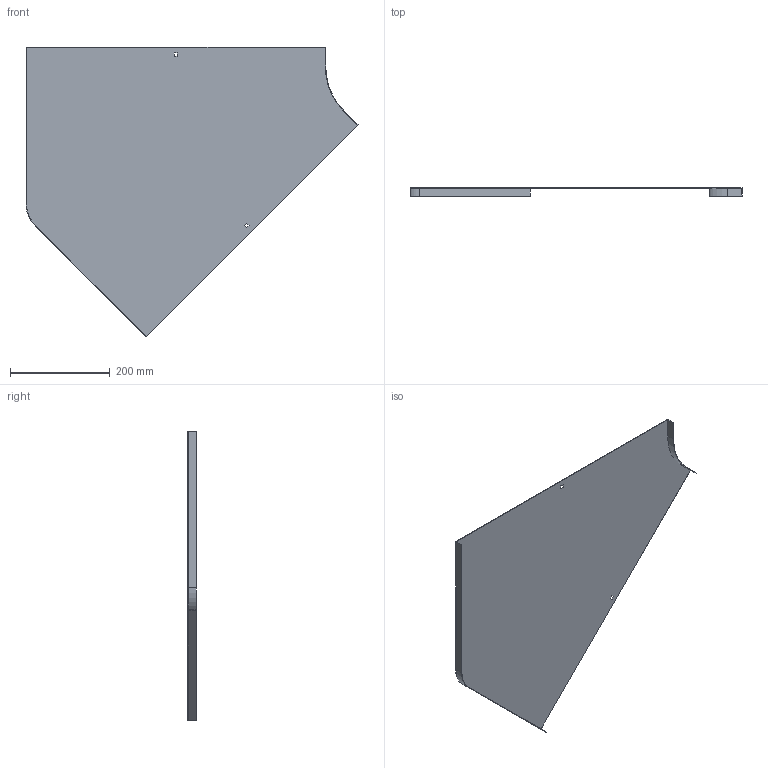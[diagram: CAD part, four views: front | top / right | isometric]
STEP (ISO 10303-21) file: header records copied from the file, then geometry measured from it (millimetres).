
FILE_DESCRIPTION (( 'STEP AP214' ), '1' );
FILE_NAME ('OP4_600.step', '2025-07-16T09:14:40', ( '' ), ( '' ), 'SwSTEP 2.0', 'SolidWorks 2023', '' );
FILE_SCHEMA (( 'AUTOMOTIVE_DESIGN' ));
Length unit declared in the file: millimetre
Products named in the file (1): OP4_600
Bounding box: 666.6 x 17 x 581.64 mm (x, y, z)
Volume: 273970.7 mm3; surface area: 550117.4 mm2
Topology: 1 solids, 1 shells, 26 faces, 72 edges, 48 vertices
Faces by surface type: plane 22, cylinder 4
Entity records: 855 total; most frequent: CARTESIAN_POINT 147, ORIENTED_EDGE 144, DIRECTION 134, EDGE_CURVE 72, VECTOR 64, LINE 64, VERTEX_POINT 48, AXIS2_PLACEMENT_3D 35
